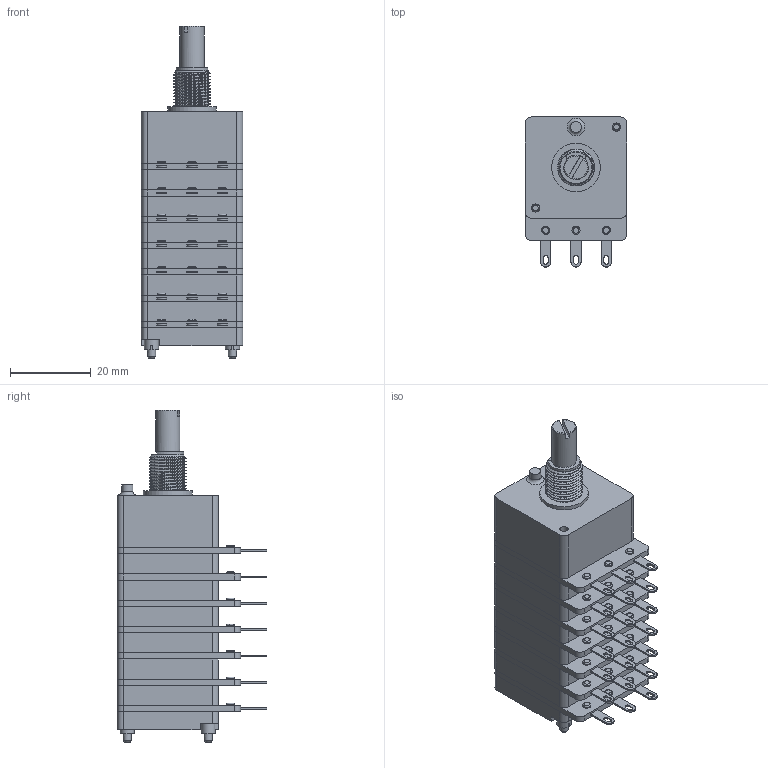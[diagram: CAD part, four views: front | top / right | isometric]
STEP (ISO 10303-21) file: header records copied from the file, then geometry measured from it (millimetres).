
FILE_DESCRIPTION(('FreeCAD Model'),'2;1');
FILE_NAME('Open CASCADE Shape Model','2024-02-27T10:40:59',(''),(''), 'Open CASCADE STEP processor 7.6','FreeCAD','Unknown');
FILE_SCHEMA(('AUTOMOTIVE_DESIGN { 1 0 10303 214 1 1 1 1 }'));
Products named in the file (1): 7cp25xx-s20
Bounding box: 25 x 37 x 82 mm (x, y, z)
Volume: 38249.4 mm3; surface area: 12343.2 mm2
Topology: 1 solids, 36 shells, 691 faces, 1506 edges, 947 vertices
Faces by surface type: plane 359, cylinder 263, bspline 38, torus 25, cone 6
Full cylindrical faces by diameter (mm): 1.9 x2, 2 x53, 2.2 x26, 2.8 x1, 3.5 x2, 4.5 x7, 5.4 x1, 6 x1, 6.05 x1, 8 x1, 9.09 x11, 12 x1
Entity records: 49232 total; most frequent: CARTESIAN_POINT 17228, DIRECTION 5408, ORIENTED_EDGE 3010, PCURVE 3010, DEFINITIONAL_REPRESENTATION 3010, LINE 2706, VECTOR 2706, EDGE_CURVE 1505
